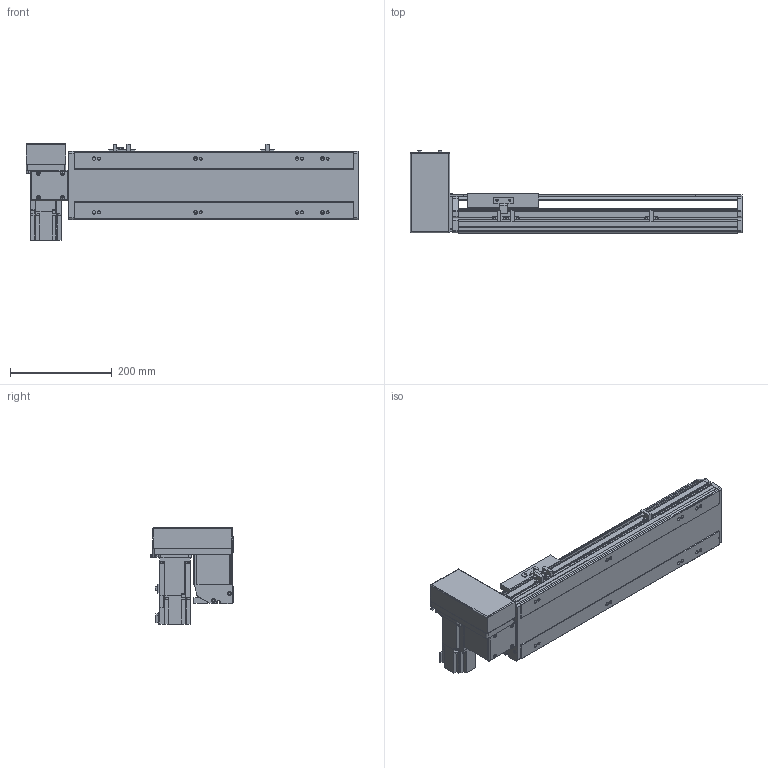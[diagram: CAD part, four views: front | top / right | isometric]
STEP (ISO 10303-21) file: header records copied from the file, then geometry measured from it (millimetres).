
FILE_DESCRIPTION( ( 'STEP AP214' ), '1' );
FILE_NAME( 'x:/temp/worker_4/temp/exporttempdir_2248_92_n2v6r/format_0/PBS140-P40-S300-RU-T40-C1-N(0).stp', '2022-06-07T05:52:52', ( 'License CC BY-ND 4.0' ), ( 'CADENAS' ), ' ', 'PARTsolutions', ' ' );
FILE_SCHEMA( ( 'AUTOMOTIVE_DESIGN { 1 0 10303 214 1 1 1 1 }' ) );
Length unit declared in the file: millimetre
Products named in the file (7): PBS140-P40-S300-RU-T40-C1-N(0); _PBS140-S300()_body; _PBS140T-RU_motors; _T40-p1; _PBS140_sliser; _PBS140_plant; _PBS140_sensor
Assembly tree (8 placements, depth 2):
  PBS140-P40-S300-RU-T40-C1-N(0)
    _PBS140-S300()_body
    _PBS140T-RU_motors
    _T40-p1
    _PBS140_sliser
    _PBS140_plant
    _PBS140_sensor  x3
Bounding box: 654 x 162.5 x 189.7 mm (x, y, z)
Volume: 3577174.3 mm3; surface area: 654832.7 mm2
Topology: 8 solids, 8 shells, 1011 faces, 2676 edges, 1749 vertices
Faces by surface type: plane 668, cylinder 299, cone 34, sphere 8, torus 2
Full cylindrical faces by diameter (mm): 3.242 x4, 4 x2, 4.134 x4, 4.4 x8, 4.5 x2, 4.8 x4, 4.917 x16, 5.5 x7, 6 x2, 7 x10, 7.5 x8, 8 x12, 8.5 x4, 10.5 x8, 14 x1, 30 x2, 50 x2
Entity records: 36721 total; most frequent: CARTESIAN_POINT 5579, DIRECTION 4917, ORIENTED_EDGE 4672, EDGE_CURVE 2336, AXIS2_PLACEMENT_3D 1687, VERTEX_POINT 1605, LINE 1543, VECTOR 1543
